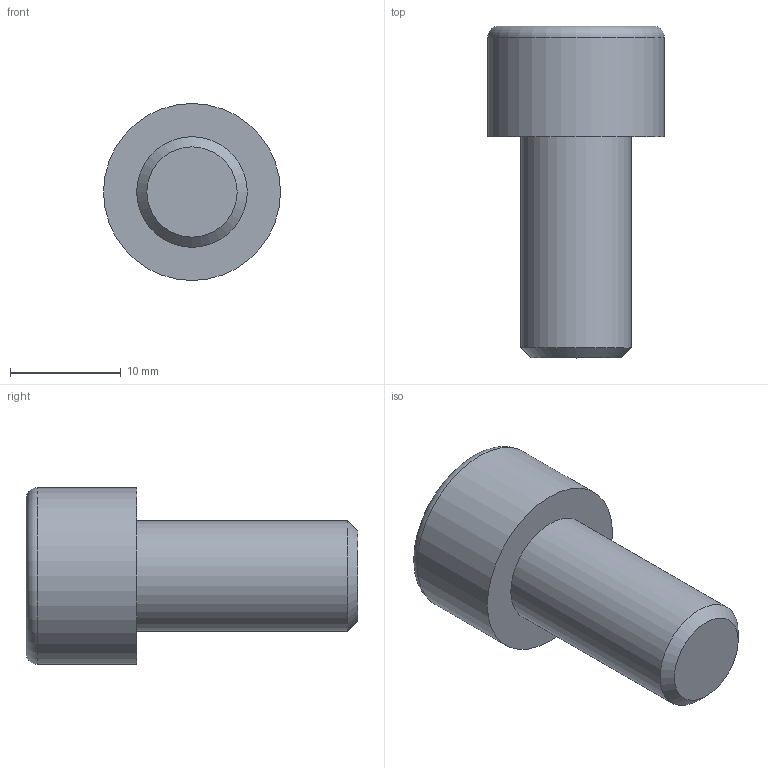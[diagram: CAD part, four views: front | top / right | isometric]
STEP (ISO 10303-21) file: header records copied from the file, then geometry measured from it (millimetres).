
FILE_DESCRIPTION(/* description */ (''),/* implementation_level */ '2;1');
FILE_NAME(/* name */ 'C:\Users\D\Documents\Inventor\各種小物\JIS\JIS B 1176 六角穴付きボルト\M10x20.stp',/* time_stamp */ '2022-05-09T18:52:19+09:00',/* author */ ('D'),/* organization */ (''),/* preprocessor_version */ 'ST-DEVELOPER v18',/* originating_system */ 'Autodesk Inventor 2020',/* authorisation */ '');
FILE_SCHEMA (('AUTOMOTIVE_DESIGN { 1 0 10303 214 3 1 1 }'));
Length unit declared in the file: millimetre
Products named in the file (1): M1.6x2.5
Bounding box: 16 x 30 x 16 mm (x, y, z)
Volume: 3223.4 mm3; surface area: 1646.7 mm2
Topology: 1 solids, 1 shells, 14 faces, 33 edges, 22 vertices
Faces by surface type: plane 9, cone 2, cylinder 2, torus 1
Full cylindrical faces by diameter (mm): 10 x1, 16 x1
Entity records: 435 total; most frequent: CARTESIAN_POINT 83, ORIENTED_EDGE 64, DIRECTION 64, EDGE_CURVE 32, AXIS2_PLACEMENT_3D 24, VERTEX_POINT 22, EDGE_LOOP 16, LINE 16
